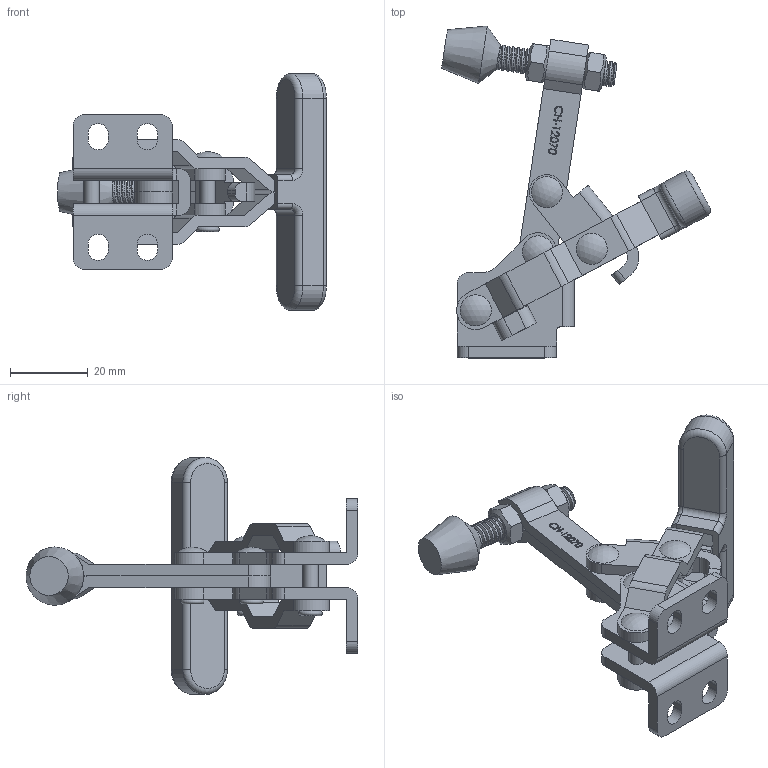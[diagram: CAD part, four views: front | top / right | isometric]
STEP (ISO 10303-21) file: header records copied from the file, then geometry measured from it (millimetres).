
FILE_DESCRIPTION(/* description */ ('STEP AP203'),/* implementation_level */ '2;1');
FILE_NAME(/* name */ 'D:\Vault_2016\Projekty\NASZ KATALOG\CLAMPTEK\STRONA\Vertical toggle clamp\CH-12070\CH-12070_OTWARTY.stp',/* time_stamp */ '2019-01-18T12:49:16+01:00',/* author */ ('CADENGINEERING4'),/* organization */ ('Î¢ÈíÖÐ¹ú'),/* preprocessor_version */ 'ST-DEVELOPER v17.2',/* originating_system */ 'Autodesk Inventor 2019',/* authorisation */ '');
FILE_SCHEMA (('AUTOMOTIVE_DESIGN { 1 0 10303 214 3 1 1 }'));
Length unit declared in the file: millimetre
Products named in the file (9): CH-12070_OTWARTY; CH-12050-01 FLANGED BASE; CH-12070-02 FIXED SPINDLE; CH-12070-03 T-HANDLE; CH-12050-07; CH-12050-04 CONNECTING-PLATE; CH-12050-06; CH-FC-14134 SPINDLE SUPPLIED; CH-FC-14134 Nut
Assembly tree (11 placements, depth 2):
  CH-12070_OTWARTY
    CH-12050-01 FLANGED BASE
    CH-12070-02 FIXED SPINDLE
    CH-12070-03 T-HANDLE
    CH-12050-07  x2
    CH-12050-06  x2
    CH-12050-04 CONNECTING-PLATE
    CH-FC-14134 Nut  x2
    CH-FC-14134 SPINDLE SUPPLIED
Bounding box: 69.21 x 85.42 x 61 mm (x, y, z)
Volume: 26237.3 mm3; surface area: 20599.2 mm2
Topology: 12 solids, 15 shells, 631 faces, 1745 edges, 1177 vertices
Faces by surface type: plane 282, bspline 172, cylinder 139, cone 18, torus 16, sphere 4
Full cylindrical faces by diameter (mm): 1.005 x1, 1.217 x1, 4 x20, 5.1 x6, 6.4 x26
Entity records: 36550 total; most frequent: CARTESIAN_POINT 21869, ORIENTED_EDGE 3308, DIRECTION 2399, EDGE_CURVE 1654, VERTEX_POINT 1113, LINE 937, VECTOR 937, AXIS2_PLACEMENT_3D 731
